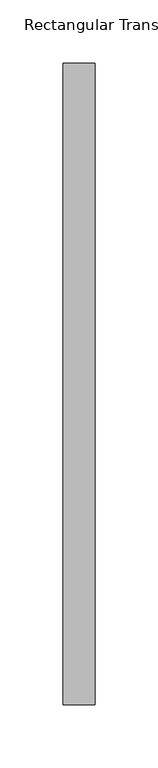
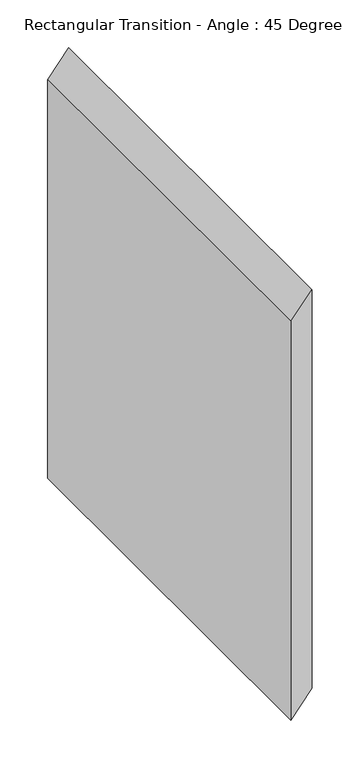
"""IFC4 building model written with IfcOpenShell, lengths in millimetres: duct fitting geometry, Rectangular Transition - Angle : 45 Degree."""

import ifcopenshell
import ifcopenshell.guid

model = None  # the IFC model being written
_history = None  # IfcOwnerHistory: only IFC2X3 demands one
_inside = {}  # id of a spatial element -> (the spatial element, [elements in it])
_under = {}  # id of a project, library or spatial element -> (it, [spatial elements below it])
_declared = {}  # id of a project -> (the project, [libraries it declares])
_typed = {}  # id of a type object -> (the type object, [elements of that type])
_made_of = {}  # id of a material, layer set ... -> (it, [elements and type objects made of it])


def new_model(schema):
    """Start an empty IFC model of exactly this schema.

    Asked for "IFC4X3", IfcOpenShell would pick the latest addendum, in which some entities
    have other attributes; the version numbers below select the first issue.
    IFC2X3 requires an IfcOwnerHistory on every rooted entity: one is made here for all.
    """
    global model, _history
    if schema == "IFC4X3":
        model = ifcopenshell.file(schema_version=(4, 3, 0, 0))
    else:
        model = ifcopenshell.file(schema=schema)
    _inside.clear()
    _under.clear()
    _declared.clear()
    _typed.clear()
    _made_of.clear()
    _history = None
    if model.schema == "IFC2X3":
        org = make("IfcOrganization", Name="unknown")
        user = make(
            "IfcPersonAndOrganization",
            ThePerson=make("IfcPerson", FamilyName="unknown"),
            TheOrganization=org,
        )
        app = make(
            "IfcApplication",
            ApplicationDeveloper=org,
            Version="unknown",
            ApplicationFullName="unknown",
            ApplicationIdentifier="unknown",
        )
        _history = make(
            "IfcOwnerHistory",
            OwningUser=user,
            OwningApplication=app,
            ChangeAction="ADDED",
            CreationDate=0,
        )
    return model


def make(cls, **values):
    """One entity of the class cls with the attributes given. An attribute that is None is left unset."""
    return model.create_entity(
        cls, **{name: value for name, value in values.items() if value is not None}
    )


def rooted(cls, **values):
    """An entity with a GlobalId (a new one), such as an element, a storey or a relation."""
    return make(cls, GlobalId=ifcopenshell.guid.new(), OwnerHistory=_history, **values)


def si_unit(unit_type, name, prefix=None):
    """IfcSIUnit, for example si_unit("LENGTHUNIT", "METRE", prefix="MILLI")."""
    return make("IfcSIUnit", UnitType=unit_type, Prefix=prefix, Name=name)


def assignment(units):
    """IfcUnitAssignment: the units of a project."""
    return None if units is None else make("IfcUnitAssignment", Units=units)


def point(xyz):
    """IfcCartesianPoint."""
    return None if xyz is None else make("IfcCartesianPoint", Coordinates=xyz)


def direction(xyz):
    """IfcDirection."""
    return None if xyz is None else make("IfcDirection", DirectionRatios=xyz)


def frame(location, z_axis=None, x_axis=None):
    """IfcAxis2Placement3D, a coordinate frame: its origin and axes. An axis left out is left unset."""
    return make(
        "IfcAxis2Placement3D",
        Location=point(location),
        Axis=direction(z_axis),
        RefDirection=direction(x_axis),
    )


def origin():
    """The frame at (0, 0, 0) with its axes left unset."""
    return frame((0.0, 0.0, 0.0))


def place(relative_to, where):
    """IfcLocalPlacement: puts the frame where relative to a parent placement (None: the world)."""
    return make(
        "IfcLocalPlacement", PlacementRelTo=relative_to, RelativePlacement=where
    )


def context(
    kind, dimensions, precision=None, world=None, true_north=None, identifier=None
):
    """IfcGeometricRepresentationContext, for example the 3D "Model" context."""
    return make(
        "IfcGeometricRepresentationContext",
        ContextIdentifier=identifier,
        ContextType=kind,
        CoordinateSpaceDimension=dimensions,
        Precision=precision,
        WorldCoordinateSystem=world,
        TrueNorth=true_north,
    )


def project(units=None, contexts=None):
    """IfcProject with its units and contexts."""
    return rooted(
        "IfcProject",
        Name="project",
        RepresentationContexts=contexts,
        UnitsInContext=assignment(units),
    )


def spatial(cls, under=None, at=None, **own):
    """A site, building, storey or space (cls), placed at a placement, below another one or the project."""
    s = rooted(cls, ObjectPlacement=at, **own)
    if under is not None:
        _under.setdefault(under.id(), (under, []))[1].append(s)
    return s


def polyline(points):
    """IfcPolyline through the points."""
    return make("IfcPolyline", Points=[point(p) for p in points])


def outline(outer, holes=None, kind="AREA"):
    """IfcArbitraryClosedProfileDef: a profile drawn as a closed curve; with holes, ...WithVoids."""
    if holes is None:
        return make("IfcArbitraryClosedProfileDef", ProfileType=kind, OuterCurve=outer)
    return make(
        "IfcArbitraryProfileDefWithVoids",
        ProfileType=kind,
        OuterCurve=outer,
        InnerCurves=holes,
    )


def extrude(swept, where, along, depth):
    """IfcExtrudedAreaSolid: the profile swept, set in the frame where, extruded along a direction by depth."""
    return make(
        "IfcExtrudedAreaSolid",
        SweptArea=swept,
        Position=where,
        ExtrudedDirection=direction(along),
        Depth=depth,
    )


def shape(context_of_items, identifier, shape_type, items):
    """IfcShapeRepresentation: the items that make up one representation, for example the "Body"."""
    return make(
        "IfcShapeRepresentation",
        ContextOfItems=context_of_items,
        RepresentationIdentifier=identifier,
        RepresentationType=shape_type,
        Items=items,
    )


def source(mapping_origin, context_of_items, identifier, shape_type, items):
    """IfcRepresentationMap: a shape defined once, which mapped items show again and again."""
    return make(
        "IfcRepresentationMap",
        MappingOrigin=mapping_origin,
        MappedRepresentation=shape(context_of_items, identifier, shape_type, items),
    )


def transform(
    local_origin,
    x_axis=None,
    y_axis=None,
    z_axis=None,
    scale=None,
    scale2=None,
    scale3=None,
    uniform=True,
):
    """IfcCartesianTransformationOperator3D, or its non-uniform kind. x_axis, y_axis, z_axis: its Axis1, 2, 3."""
    if uniform:
        return make(
            "IfcCartesianTransformationOperator3D",
            Axis1=direction(x_axis),
            Axis2=direction(y_axis),
            LocalOrigin=point(local_origin),
            Scale=scale,
            Axis3=direction(z_axis),
        )
    return make(
        "IfcCartesianTransformationOperator3DnonUniform",
        Axis1=direction(x_axis),
        Axis2=direction(y_axis),
        LocalOrigin=point(local_origin),
        Scale=scale,
        Axis3=direction(z_axis),
        Scale2=scale2,
        Scale3=scale3,
    )


def mapped(mapping_source, mapping_target):
    """IfcMappedItem: shows the shape of a source again, moved by a transform."""
    return make(
        "IfcMappedItem", MappingSource=mapping_source, MappingTarget=mapping_target
    )


def made_of(thing, what):
    """Note that an element or type object is made of a material, layer set ...; save() writes the relation."""
    if what is not None:
        _made_of.setdefault(what.id(), (what, []))[1].append(thing)
    return thing


def element(
    cls,
    number,
    at=None,
    inside=None,
    cuts=None,
    type_object=None,
    material=None,
    context=None,
    identifier="Body",
    shape_type=None,
    held_by="IfcProductDefinitionShape",
    body=None,
    shapes=None,
    **own,
):
    """One element of the class cls, such as IfcWall. Its Tag is "e" and its number.

    at: its placement. inside: the storey or other place that contains it. cuts: it is an
    opening in that element (IfcRelVoidsElement). A single representation is given by context,
    identifier, shape_type and body (its items); several are given by shapes. held_by: the class
    of the entity that holds the representations. save() writes the other relations.
    """
    e = rooted(cls, Tag="e%d" % number, ObjectPlacement=at, **own)
    if body is not None:
        shapes = [shape(context, identifier, shape_type, body)]
    if shapes is not None:
        e.Representation = make(held_by, Representations=shapes)
    if inside is not None:
        _inside.setdefault(inside.id(), (inside, []))[1].append(e)
    if cuts is not None:
        rooted(
            "IfcRelVoidsElement", RelatingBuildingElement=cuts, RelatedOpeningElement=e
        )
    if type_object is not None:
        _typed.setdefault(type_object.id(), (type_object, []))[1].append(e)
    return made_of(e, material)


def aggregate(whole, parts):
    """IfcRelAggregates: a whole, such as a stair, and the parts it consists of."""
    return rooted("IfcRelAggregates", RelatingObject=whole, RelatedObjects=parts)


def save(model, path):
    """Write the relations noted so far, then the file.

    IfcRelAggregates (storeys below a building ...), IfcRelContainedInSpatialStructure (elements
    in a storey), IfcRelDefinesByType, IfcRelAssociatesMaterial and IfcRelDeclares: one each for
    every whole, place, type object, material and project.
    """
    for whole, parts in _under.values():
        aggregate(whole, parts)
    for where, things in _inside.values():
        rooted(
            "IfcRelContainedInSpatialStructure",
            RelatedElements=things,
            RelatingStructure=where,
        )
    for kind, things in _typed.values():
        rooted("IfcRelDefinesByType", RelatedObjects=things, RelatingType=kind)
    for what, things in _made_of.values():
        rooted("IfcRelAssociatesMaterial", RelatedObjects=things, RelatingMaterial=what)
    for by, libraries in _declared.values():
        rooted("IfcRelDeclares", RelatingContext=by, RelatedDefinitions=libraries)
    model.write(path)


def rectangular_transition_angle_45_degree_e8488e1d(model_context):
    return source(origin(), model_context, "Body", "SweptSolid", [
        extrude(outline(polyline([(254.0, 0.0), (-254.0, 0.0), (-222.25, 25.4), (285.75, 25.4), (254.0, 0.0)])), frame((0.0, -254.0, 0.0), z_axis=(0.0, 1.0, 0.0), x_axis=(0.0, 0.0, 1.0)), (0.0, 0.0, 1.0), 508.0),
    ])


if __name__ == "__main__":
    model = new_model("IFC4")
    model_context = context("Model", 3, world=origin())
    ifc_project = project(units=[si_unit("LENGTHUNIT", "METRE", prefix="MILLI")], contexts=[model_context])
    site = spatial("IfcSite", under=ifc_project)
    building = spatial("IfcBuilding", under=site)
    placement = place(None, origin())
    rectangular_transition_angle_45_degree_shape = rectangular_transition_angle_45_degree_e8488e1d(model_context)
    element("IfcDuctFitting", 1, ObjectType="Rectangular Transition - Angle : 45 Degree", at=placement, inside=building, context=model_context, shape_type="MappedRepresentation", body=[
        mapped(rectangular_transition_angle_45_degree_shape, transform((0.0, 0.0, 0.0), x_axis=(1.0, 0.0, 0.0), y_axis=(0.0, 1.0, 0.0), z_axis=(0.0, 0.0, 1.0))),
    ])
    save(model, "model.ifc")
